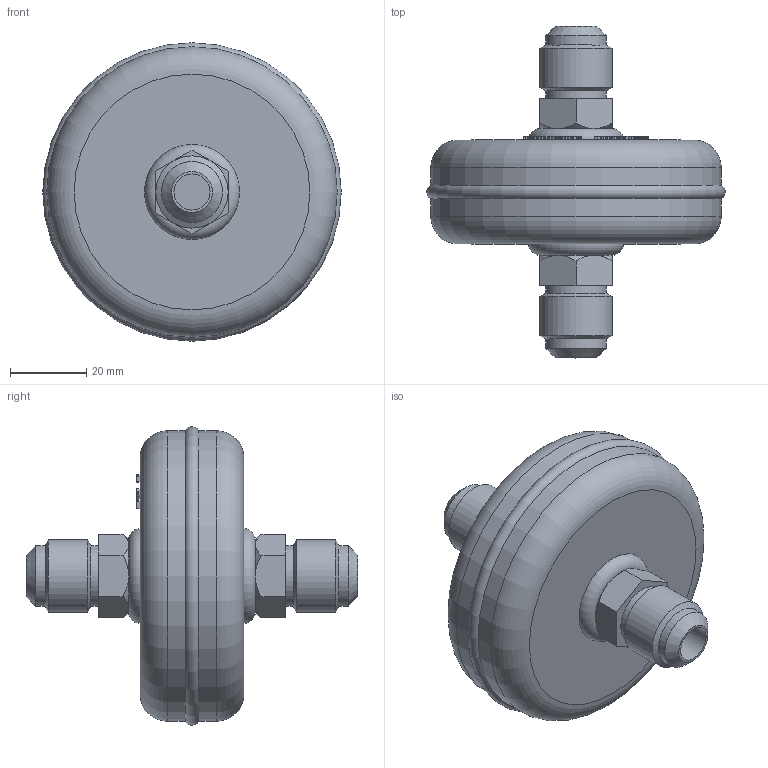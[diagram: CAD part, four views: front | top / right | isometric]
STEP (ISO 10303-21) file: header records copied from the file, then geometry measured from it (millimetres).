
FILE_DESCRIPTION(/* description */ (''),/* implementation_level */ '2;1');
FILE_NAME(/* name */ 'P:\F\F-12B\F-12B.stp',/* time_stamp */ '2017-10-05T08:16:35+02:00',/* author */ ('neufeld'),/* organization */ (''),/* preprocessor_version */ 'ST-DEVELOPER v16.1',/* originating_system */ 'Autodesk Inventor 2016',/* authorisation */ '');
FILE_SCHEMA (('AUTOMOTIVE_DESIGN { 1 0 10303 214 3 1 1 }'));
Length unit declared in the file: millimetre
Products named in the file (2): F-12B; F-12B_1
Assembly tree (1 placements, depth 2):
  F-12B_1
    F-12B
Bounding box: 78.49 x 87.31 x 78.49 mm (x, y, z)
Volume: 135691.9 mm3; surface area: 19022.9 mm2
Topology: 1 solids, 1 shells, 769 faces, 2100 edges, 1393 vertices
Faces by surface type: plane 529, bspline 207, cone 18, cylinder 10, torus 5
Full cylindrical faces by diameter (mm): 9.5 x2, 16 x4, 19 x2, 76.4 x2
Entity records: 25501 total; most frequent: CARTESIAN_POINT 7564, ORIENTED_EDGE 4146, DIRECTION 2804, EDGE_CURVE 2073, LINE 1596, VECTOR 1596, VERTEX_POINT 1387, EDGE_LOOP 850
